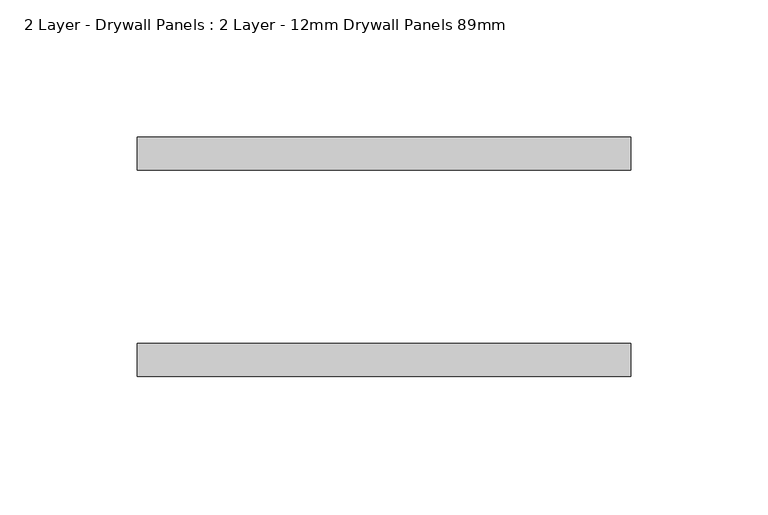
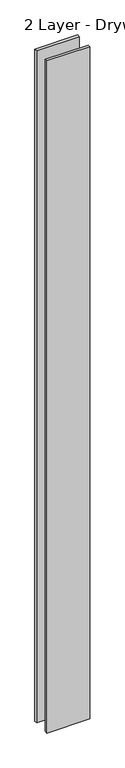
"""IFC4 building model written with IfcOpenShell, lengths in millimetres: plate geometry, 2 Layer - Drywall Panels : 2 Layer - 12mm Drywall Panels 89mm."""

from ifc_helpers import new_model, si_unit, origin, origin_with_axes, place, context, project, spatial, polyline, outline, extrude, source, transform, mapped, element, save


def plate_2_layer_drywall_panels_2_layer_12mm_drywall_panels_b7f979b4(model_context):
    return source(origin(), model_context, "Body", "SweptSolid", [
        extrude(outline(polyline([(89.6999998, 31.5), (-89.6999998, 31.5), (-89.6999998, 43.5), (89.6999998, 43.5), (89.6999998, 31.5)])), origin_with_axes(), (0.0, 0.0, 1.0), 2979.4),
        extrude(outline(polyline([(89.6999998, -31.5), (89.6999998, -43.5), (-89.6999998, -43.5), (-89.6999998, -31.5), (89.6999998, -31.5)])), origin_with_axes(), (0.0, 0.0, 1.0), 2979.4),
    ])


if __name__ == "__main__":
    model = new_model("IFC4")
    model_context = context("Model", 3, world=origin())
    ifc_project = project(units=[si_unit("LENGTHUNIT", "METRE", prefix="MILLI")], contexts=[model_context])
    site = spatial("IfcSite", under=ifc_project)
    building = spatial("IfcBuilding", under=site)
    placement = place(None, origin())
    plate_2_layer_drywall_panels_2_layer_12mm_drywall_panels_shape = plate_2_layer_drywall_panels_2_layer_12mm_drywall_panels_b7f979b4(model_context)
    element("IfcPlate", 1, ObjectType="2 Layer - Drywall Panels : 2 Layer - 12mm Drywall Panels 89mm", at=placement, inside=building, context=model_context, shape_type="MappedRepresentation", body=[
        mapped(plate_2_layer_drywall_panels_2_layer_12mm_drywall_panels_shape, transform((0.0, 0.0, 0.0), x_axis=(1.0, 0.0, 0.0), y_axis=(0.0, 1.0, 0.0), z_axis=(0.0, 0.0, 1.0))),
    ])
    save(model, "model.ifc")
